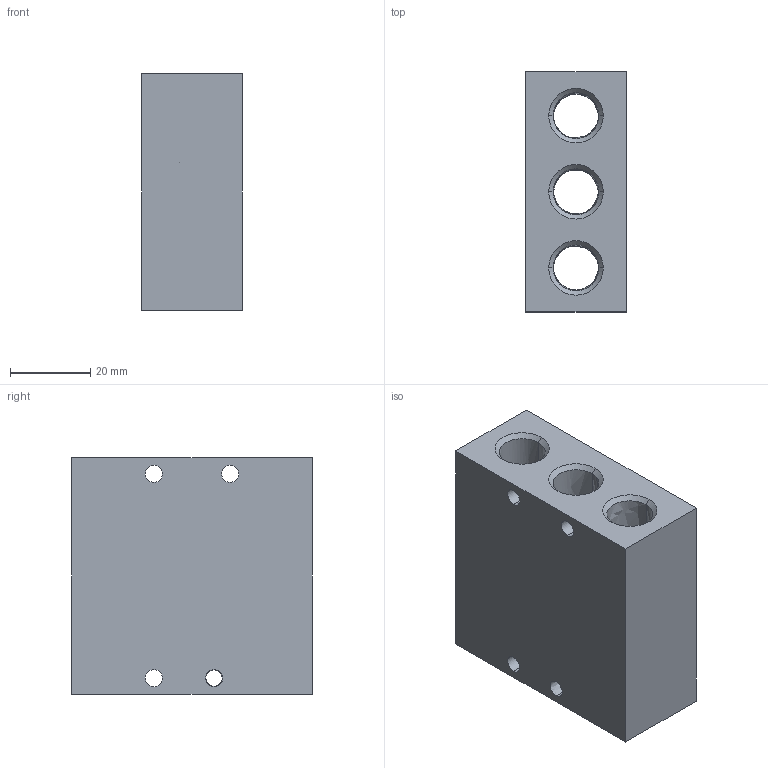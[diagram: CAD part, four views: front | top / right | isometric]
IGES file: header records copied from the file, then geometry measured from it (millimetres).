
Global section: file name: No Iges File Name specified; native system: AutoDesk Inventor R11.0; preprocessor: AutoDesk Inventor Iges Exporter R11.0; author: No Author specified; organization: No Organization specified; date: 20061201.115559; units: millimetre
Bounding box: 25 x 60 x 59 mm (x, y, z)
Volume: 64822.4 mm3; surface area: 21054.6 mm2
Topology: 1 solids, 1 shells, 103 faces, 265 edges, 161 vertices
Faces by surface type: bspline 91, revolution 6, plane 6
